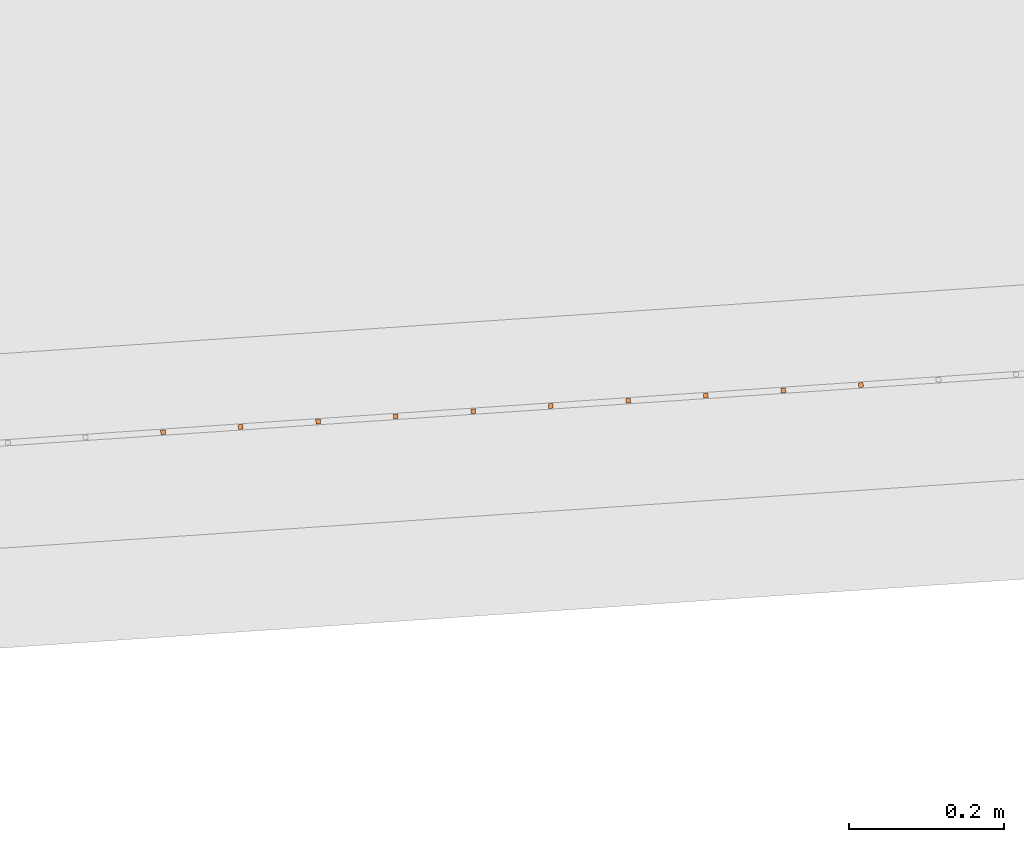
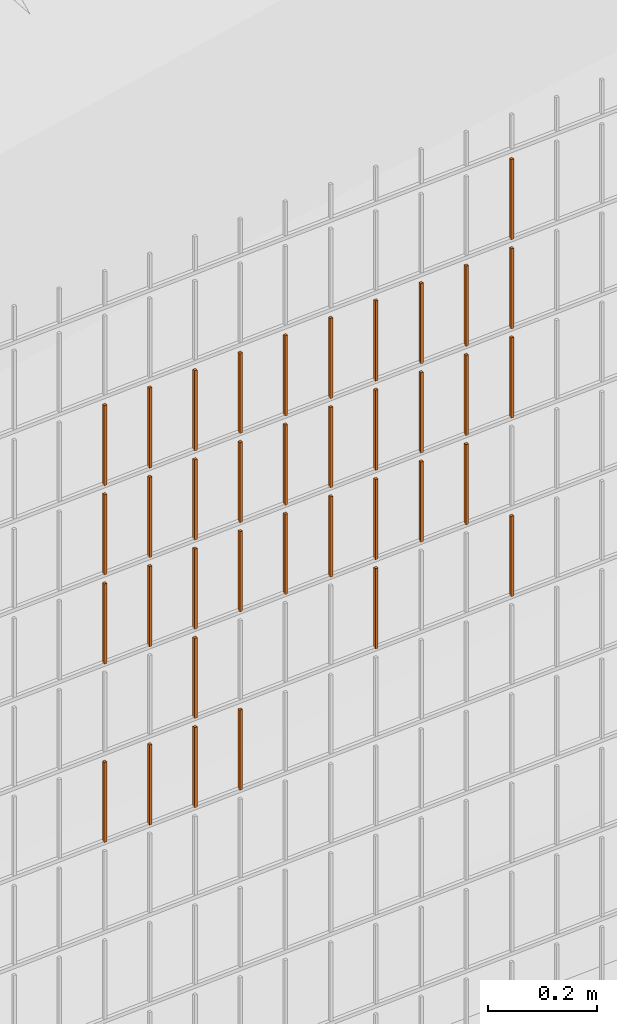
# One storey, part 130 of 1809: 37 proxies, 1 element without a shape of its own.
"""IFC2X3 building model written with IfcOpenShell, lengths in millimetres."""

from ifc_helpers import new_model, entity, si_unit, converted_unit, derived_unit, money_unit, direction, frame, origin_with_axes, place, context, subcontext, project, spatial, faceted_brep, source, transform, mapped, material, type_object, element, aggregate, save


model = new_model("IFC2X3")

# Units and contexts
model_context = context("Model", 3, precision=0.01, world=origin_with_axes(), true_north=direction((0.0, 1.0)))
body_context = subcontext(model_context, "Body", "Model", "MODEL_VIEW")
ifc_project = project(units=[si_unit("LENGTHUNIT", "METRE", prefix="MILLI"), si_unit("AREAUNIT", "SQUARE_METRE"), si_unit("VOLUMEUNIT", "CUBIC_METRE"), converted_unit("PLANEANGLEUNIT", "DEGREE", entity("IfcPlaneAngleMeasure", 0.0174532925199), si_unit("PLANEANGLEUNIT", "RADIAN"), dimensions=[0, 0, 0, 0, 0, 0, 0]), si_unit("SOLIDANGLEUNIT", "STERADIAN"), money_unit("EUR"), converted_unit("TIMEUNIT", "Year", entity("IfcTimeMeasure", 31556926.0), si_unit("TIMEUNIT", "SECOND"), dimensions=[0, 0, 1, 0, 0, 0, 0]), si_unit("MASSUNIT", "GRAM", prefix="KILO"), si_unit("THERMODYNAMICTEMPERATUREUNIT", "DEGREE_CELSIUS"), si_unit("LUMINOUSINTENSITYUNIT", "LUMEN"), si_unit("ENERGYUNIT", "JOULE", prefix="MEGA"), derived_unit("THERMALCONDUCTANCEUNIT", [(si_unit("POWERUNIT", "WATT"), 1), (si_unit("LENGTHUNIT", "METRE"), -1), (si_unit("THERMODYNAMICTEMPERATUREUNIT", "KELVIN"), -1)]), derived_unit("SPECIFICHEATCAPACITYUNIT", [(si_unit("ENERGYUNIT", "JOULE"), 1), (si_unit("MASSUNIT", "GRAM", prefix="KILO"), -1), (si_unit("THERMODYNAMICTEMPERATUREUNIT", "KELVIN"), -1)]), derived_unit("MASSDENSITYUNIT", [(si_unit("MASSUNIT", "GRAM", prefix="KILO"), 1), (si_unit("VOLUMEUNIT", "CUBIC_METRE"), -1)])], contexts=[model_context])

# Site, building, storey
site_placement = place(None, origin_with_axes())
site = spatial("IfcSite", under=ifc_project, at=site_placement, Name="Politse- ja Piirivalveameti ning Päästeameti ühishoone", CompositionType="ELEMENT")
building_placement = place(site_placement, origin_with_axes())
building = spatial("IfcBuilding", under=site, at=building_placement, Name="Politse- ja Piirivalveameti ning Päästeameti ühishoone", CompositionType="ELEMENT")
storey_placement = place(building_placement, origin_with_axes())
storey = spatial("IfcBuildingStorey", under=building, at=storey_placement, Name="Esimene korrus", CompositionType="ELEMENT", Elevation=0.0)

# Proxies
building_element_proxy_type_1 = type_object("IfcBuildingElementProxyType", Name="Railing Type", PredefinedType="NOTDEFINED")
proxy_1_placement = place(storey_placement, frame((89252.001212, -29183.4766571, 203.661247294), z_axis=(0.0, 0.0, 1.0), x_axis=(1.0, 0.0, 0.0)))
proxy_1 = element("IfcBuildingElementProxy", 1, at=proxy_1_placement, inside=storey, type_object=building_element_proxy_type_1, Name="PIIRDEAED")
ifc_material = material(Name="ET-03_Raud")
building_element_proxy_type_2 = type_object("IfcBuildingElementProxyType", Name="IfcBuildingElementProxy", PredefinedType="NOTDEFINED")
shared_shape_1 = source(origin_with_axes(), body_context, "Body", "Brep", [
    faceted_brep([(3.0, 3.0, -0.000752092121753), (-3.0, 3.0, -0.000752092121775), (-3.0, 3.0, 179.99926046), (3.0, 3.0, 179.99926046), (3.0, -3.0, 0.000752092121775), (-3.0, -3.0, 0.000752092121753), (-3.0, -3.0, 180.000764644), (3.0, -3.0, 180.000764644)], [[[0, 1, 2, 3]], [[0, 4, 5, 1]], [[1, 5, 6, 2]], [[3, 2, 6, 7]], [[4, 0, 3, 7]], [[5, 4, 7, 6]]]),
])
proxy_2_placement = place(proxy_1_placement, frame((-91119.0595055, -23452.5233603, 1204.33902467), z_axis=(0.0, 0.0, 1.0), x_axis=(1.0, 0.0, 0.0)))
proxy_2 = element("IfcBuildingElementProxy", 2, at=proxy_2_placement, type_object=building_element_proxy_type_2, material=ifc_material, Name="BALUSTER - 001", context=body_context, shape_type="MappedRepresentation", body=[
    mapped(shared_shape_1, transform((0.0, 0.0, 0.0), x_axis=(-0.0673926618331, 0.997726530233, 0.0), y_axis=(-0.997726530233, -0.0673926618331, 0.0), z_axis=(0.0, 0.0, 1.0))),
])
shared_shape_2 = source(origin_with_axes(), body_context, "Body", "Brep", [
    faceted_brep([(3.0, 3.0, -0.000752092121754), (-3.0, 3.0, -0.000752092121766), (-3.00000000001, 3.00000000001, 179.99926046), (2.99999999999, 3.00000000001, 179.99926046), (3.0, -3.0, 0.000752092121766), (-3.0, -3.0, 0.000752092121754), (-3.00000000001, -2.99999999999, 180.000764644), (2.99999999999, -2.99999999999, 180.000764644)], [[[0, 1, 2, 3]], [[0, 4, 5, 1]], [[1, 5, 6, 2]], [[3, 2, 6, 7]], [[4, 0, 3, 7]], [[5, 4, 7, 6]]]),
])
proxy_3_placement = place(proxy_1_placement, frame((-90919.5141994, -23439.0448279, 1004.38916414), z_axis=(0.0, 0.0, 1.0), x_axis=(1.0, 0.0, 0.0)))
proxy_3 = element("IfcBuildingElementProxy", 3, at=proxy_3_placement, type_object=building_element_proxy_type_2, material=ifc_material, Name="BALUSTER - 001", context=body_context, shape_type="MappedRepresentation", body=[
    mapped(shared_shape_2, transform((0.0, 0.0, 0.0), x_axis=(-0.0673926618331, 0.997726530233, 0.0), y_axis=(-0.997726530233, -0.0673926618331, 0.0), z_axis=(0.0, 0.0, 1.0))),
])
shared_shape_3 = source(origin_with_axes(), body_context, "Body", "Brep", [
    faceted_brep([(3.0, 3.0, -0.000752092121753), (-3.0, 3.0, -0.000752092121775), (-3.0, 3.0, 179.99926046), (3.0, 3.0, 179.99926046), (3.0, -3.0, 0.000752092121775), (-3.0, -3.0, 0.000752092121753), (-3.0, -3.0, 180.000764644), (3.0, -3.0, 180.000764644)], [[[0, 1, 2, 3]], [[0, 4, 5, 1]], [[1, 5, 6, 2]], [[3, 2, 6, 7]], [[4, 0, 3, 7]], [[5, 4, 7, 6]]]),
])
proxy_4_placement = place(proxy_1_placement, frame((-91119.0595055, -23452.5233603, 1404.33902467), z_axis=(0.0, 0.0, 1.0), x_axis=(1.0, 0.0, 0.0)))
proxy_4 = element("IfcBuildingElementProxy", 4, at=proxy_4_placement, type_object=building_element_proxy_type_2, material=ifc_material, Name="BALUSTER - 001", context=body_context, shape_type="MappedRepresentation", body=[
    mapped(shared_shape_3, transform((0.0, 0.0, 0.0), x_axis=(-0.0673926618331, 0.997726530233, 0.0), y_axis=(-0.997726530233, -0.0673926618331, 0.0), z_axis=(0.0, 0.0, 1.0))),
])
proxy_5_placement = place(proxy_1_placement, frame((-91119.0595055, -23452.5233603, 1604.33902467), z_axis=(0.0, 0.0, 1.0), x_axis=(1.0, 0.0, 0.0)))
proxy_5 = element("IfcBuildingElementProxy", 5, at=proxy_5_placement, type_object=building_element_proxy_type_2, material=ifc_material, Name="BALUSTER - 001", context=body_context, shape_type="MappedRepresentation", body=[
    mapped(shared_shape_3, transform((0.0, 0.0, 0.0), x_axis=(-0.0673926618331, 0.997726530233, 0.0), y_axis=(-0.997726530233, -0.0673926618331, 0.0), z_axis=(0.0, 0.0, 1.0))),
])
shared_shape_4 = source(origin_with_axes(), body_context, "Body", "Brep", [
    faceted_brep([(3.0, 3.0, -0.000752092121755), (-3.0, 3.0, -0.000752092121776), (-3.0, 3.0, 179.99926046), (3.0, 3.0, 179.99926046), (3.0, -3.0, 0.000752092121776), (-3.0, -3.0, 0.000752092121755), (-3.0, -3.0, 180.000764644), (3.0, -3.0, 180.000764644)], [[[0, 1, 2, 3]], [[0, 4, 5, 1]], [[1, 5, 6, 2]], [[3, 2, 6, 7]], [[4, 0, 3, 7]], [[5, 4, 7, 6]]]),
])
proxy_6_placement = place(proxy_1_placement, frame((-90719.9688934, -23425.5662955, 1204.43930362), z_axis=(0.0, 0.0, 1.0), x_axis=(1.0, 0.0, 0.0)))
proxy_6 = element("IfcBuildingElementProxy", 6, at=proxy_6_placement, type_object=building_element_proxy_type_2, material=ifc_material, Name="BALUSTER - 001", context=body_context, shape_type="MappedRepresentation", body=[
    mapped(shared_shape_4, transform((0.0, 0.0, 0.0), x_axis=(-0.0673926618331, 0.997726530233, 0.0), y_axis=(-0.997726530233, -0.0673926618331, 0.0), z_axis=(0.0, 0.0, 1.0))),
])
shared_shape_5 = source(origin_with_axes(), body_context, "Body", "Brep", [
    faceted_brep([(3.0, 3.0, -0.000752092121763), (-3.0, 3.0, -0.000752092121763), (-3.0, 3.0, 179.99926046), (3.0, 3.0, 179.99926046), (3.0, -3.0, 0.000752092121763), (-3.0, -3.0, 0.000752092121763), (-3.0, -3.0, 180.000764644), (3.0, -3.0, 180.000764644)], [[[0, 1, 2, 3]], [[0, 4, 5, 1]], [[1, 5, 6, 2]], [[3, 2, 6, 7]], [[4, 0, 3, 7]], [[5, 4, 7, 6]]]),
])
proxy_7_placement = place(proxy_1_placement, frame((-90919.5141994, -23439.0448279, 804.389164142), z_axis=(0.0, 0.0, 1.0), x_axis=(1.0, 0.0, 0.0)))
proxy_7 = element("IfcBuildingElementProxy", 7, at=proxy_7_placement, type_object=building_element_proxy_type_2, material=ifc_material, Name="BALUSTER - 001", context=body_context, shape_type="MappedRepresentation", body=[
    mapped(shared_shape_5, transform((0.0, 0.0, 0.0), x_axis=(-0.0673926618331, 0.997726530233, 0.0), y_axis=(-0.997726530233, -0.0673926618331, 0.0), z_axis=(0.0, 0.0, 1.0))),
])
shared_shape_6 = source(origin_with_axes(), body_context, "Body", "Brep", [
    faceted_brep([(3.0, 3.0, -0.000752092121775), (-3.0, 3.0, -0.000752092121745), (-3.00000000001, 3.0, 179.99926046), (2.99999999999, 3.0, 179.99926046), (3.0, -3.0, 0.000752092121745), (-3.0, -3.0, 0.000752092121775), (-3.00000000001, -3.0, 180.000764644), (2.99999999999, -3.0, 180.000764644)], [[[0, 1, 2, 3]], [[0, 4, 5, 1]], [[1, 5, 6, 2]], [[3, 2, 6, 7]], [[4, 0, 3, 7]], [[5, 4, 7, 6]]]),
])
proxy_8_placement = place(proxy_1_placement, frame((-90221.1056283, -23391.8699646, 1004.5646523), z_axis=(0.0, 0.0, 1.0), x_axis=(1.0, 0.0, 0.0)))
proxy_8 = element("IfcBuildingElementProxy", 8, at=proxy_8_placement, type_object=building_element_proxy_type_2, material=ifc_material, Name="BALUSTER - 001", context=body_context, shape_type="MappedRepresentation", body=[
    mapped(shared_shape_6, transform((0.0, 0.0, 0.0), x_axis=(-0.0673926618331, 0.997726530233, 0.0), y_axis=(-0.997726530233, -0.0673926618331, 0.0), z_axis=(0.0, 0.0, 1.0))),
])
shared_shape_7 = source(origin_with_axes(), body_context, "Body", "Brep", [
    faceted_brep([(3.0, 3.0, -0.000752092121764), (-3.0, 3.0, -0.000752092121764), (-3.0, 3.0, 179.99926046), (3.0, 3.0, 179.99926046), (3.0, -3.0, 0.000752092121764), (-3.0, -3.0, 0.000752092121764), (-3.0, -3.0, 180.000764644), (3.0, -3.0, 180.000764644)], [[[0, 1, 2, 3]], [[0, 4, 5, 1]], [[1, 5, 6, 2]], [[3, 2, 6, 7]], [[4, 0, 3, 7]], [[5, 4, 7, 6]]]),
])
proxy_9_placement = place(proxy_1_placement, frame((-91019.2868524, -23445.7840941, 1204.3640944), z_axis=(0.0, 0.0, 1.0), x_axis=(1.0, 0.0, 0.0)))
proxy_9 = element("IfcBuildingElementProxy", 9, at=proxy_9_placement, type_object=building_element_proxy_type_2, material=ifc_material, Name="BALUSTER - 001", context=body_context, shape_type="MappedRepresentation", body=[
    mapped(shared_shape_7, transform((0.0, 0.0, 0.0), x_axis=(-0.0673926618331, 0.997726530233, 0.0), y_axis=(-0.997726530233, -0.0673926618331, 0.0), z_axis=(0.0, 0.0, 1.0))),
])
shared_shape_8 = source(origin_with_axes(), body_context, "Body", "Brep", [
    faceted_brep([(3.0, 3.0, -0.000752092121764), (-3.0, 3.0, -0.000752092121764), (-3.0, 3.0, 179.99926046), (3.0, 3.0, 179.99926046), (3.0, -3.0, 0.000752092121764), (-3.0, -3.0, 0.000752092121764), (-3.0, -3.0, 180.000764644), (3.0, -3.0, 180.000764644)], [[[0, 1, 2, 3]], [[0, 4, 5, 1]], [[1, 5, 6, 2]], [[3, 2, 6, 7]], [[4, 0, 3, 7]], [[5, 4, 7, 6]]]),
])
proxy_10_placement = place(proxy_1_placement, frame((-91019.2868524, -23445.7840941, 1404.3640944), z_axis=(0.0, 0.0, 1.0), x_axis=(1.0, 0.0, 0.0)))
proxy_10 = element("IfcBuildingElementProxy", 10, at=proxy_10_placement, type_object=building_element_proxy_type_2, material=ifc_material, Name="BALUSTER - 001", context=body_context, shape_type="MappedRepresentation", body=[
    mapped(shared_shape_8, transform((0.0, 0.0, 0.0), x_axis=(-0.0673926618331, 0.997726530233, 0.0), y_axis=(-0.997726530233, -0.0673926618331, 0.0), z_axis=(0.0, 0.0, 1.0))),
])
proxy_11_placement = place(proxy_1_placement, frame((-91019.2868524, -23445.7840941, 1604.3640944), z_axis=(0.0, 0.0, 1.0), x_axis=(1.0, 0.0, 0.0)))
proxy_11 = element("IfcBuildingElementProxy", 11, at=proxy_11_placement, type_object=building_element_proxy_type_2, material=ifc_material, Name="BALUSTER - 001", context=body_context, shape_type="MappedRepresentation", body=[
    mapped(shared_shape_8, transform((0.0, 0.0, 0.0), x_axis=(-0.0673926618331, 0.997726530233, 0.0), y_axis=(-0.997726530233, -0.0673926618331, 0.0), z_axis=(0.0, 0.0, 1.0))),
])
shared_shape_9 = source(origin_with_axes(), body_context, "Body", "Brep", [
    faceted_brep([(3.0, 3.0, -0.000752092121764), (-3.0, 3.0, -0.000752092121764), (-3.0, 3.0, 179.99926046), (3.0, 3.0, 179.99926046), (3.0, -3.0, 0.000752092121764), (-3.0, -3.0, 0.000752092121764), (-3.0, -3.0, 180.000764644), (3.0, -3.0, 180.000764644)], [[[0, 1, 2, 3]], [[0, 4, 5, 1]], [[1, 5, 6, 2]], [[3, 2, 6, 7]], [[4, 0, 3, 7]], [[5, 4, 7, 6]]]),
])
proxy_12_placement = place(proxy_1_placement, frame((-90520.4235873, -23412.0877632, 1204.48944309), z_axis=(0.0, 0.0, 1.0), x_axis=(1.0, 0.0, 0.0)))
proxy_12 = element("IfcBuildingElementProxy", 12, at=proxy_12_placement, type_object=building_element_proxy_type_2, material=ifc_material, Name="BALUSTER - 001", context=body_context, shape_type="MappedRepresentation", body=[
    mapped(shared_shape_9, transform((0.0, 0.0, 0.0), x_axis=(-0.0673926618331, 0.997726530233, 0.0), y_axis=(-0.997726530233, -0.0673926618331, 0.0), z_axis=(0.0, 0.0, 1.0))),
])
shared_shape_10 = source(origin_with_axes(), body_context, "Body", "Brep", [
    faceted_brep([(3.0, 3.0, -0.000752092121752), (-3.0, 3.0, -0.000752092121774), (-3.0, 3.0, 179.99926046), (3.0, 3.0, 179.99926046), (3.0, -3.0, 0.000752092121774), (-3.0, -3.0, 0.000752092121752), (-3.0, -3.0, 180.000764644), (3.0, -3.0, 180.000764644)], [[[0, 1, 2, 3]], [[0, 4, 5, 1]], [[1, 5, 6, 2]], [[3, 2, 6, 7]], [[4, 0, 3, 7]], [[5, 4, 7, 6]]]),
])
proxy_13_placement = place(proxy_1_placement, frame((-90819.7415464, -23432.3055617, 804.41423388), z_axis=(0.0, 0.0, 1.0), x_axis=(1.0, 0.0, 0.0)))
proxy_13 = element("IfcBuildingElementProxy", 13, at=proxy_13_placement, type_object=building_element_proxy_type_2, material=ifc_material, Name="BALUSTER - 001", context=body_context, shape_type="MappedRepresentation", body=[
    mapped(shared_shape_10, transform((0.0, 0.0, 0.0), x_axis=(-0.0673926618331, 0.997726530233, 0.0), y_axis=(-0.997726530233, -0.0673926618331, 0.0), z_axis=(0.0, 0.0, 1.0))),
])
proxy_14_placement = place(proxy_1_placement, frame((-90420.6509343, -23405.348497, 1204.51451283), z_axis=(0.0, 0.0, 1.0), x_axis=(1.0, 0.0, 0.0)))
proxy_14 = element("IfcBuildingElementProxy", 14, at=proxy_14_placement, type_object=building_element_proxy_type_2, material=ifc_material, Name="BALUSTER - 001", context=body_context, shape_type="MappedRepresentation", body=[
    mapped(shared_shape_10, transform((0.0, 0.0, 0.0), x_axis=(-0.0673926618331, 0.997726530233, 0.0), y_axis=(-0.997726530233, -0.0673926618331, 0.0), z_axis=(0.0, 0.0, 1.0))),
])
shared_shape_11 = source(origin_with_axes(), body_context, "Body", "Brep", [
    faceted_brep([(3.0, 3.0, -0.000752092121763), (-3.0, 3.0, -0.000752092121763), (-3.0, 3.0, 179.99926046), (3.0, 3.0, 179.99926046), (3.0, -3.0, 0.000752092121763), (-3.0, -3.0, 0.000752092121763), (-3.0, -3.0, 180.000764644), (3.0, -3.0, 180.000764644)], [[[0, 1, 2, 3]], [[0, 4, 5, 1]], [[1, 5, 6, 2]], [[3, 2, 6, 7]], [[4, 0, 3, 7]], [[5, 4, 7, 6]]]),
])
proxy_15_placement = place(proxy_1_placement, frame((-91019.2868524, -23445.7840941, 804.364094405), z_axis=(0.0, 0.0, 1.0), x_axis=(1.0, 0.0, 0.0)))
proxy_15 = element("IfcBuildingElementProxy", 15, at=proxy_15_placement, type_object=building_element_proxy_type_2, material=ifc_material, Name="BALUSTER - 001", context=body_context, shape_type="MappedRepresentation", body=[
    mapped(shared_shape_11, transform((0.0, 0.0, 0.0), x_axis=(-0.0673926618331, 0.997726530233, 0.0), y_axis=(-0.997726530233, -0.0673926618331, 0.0), z_axis=(0.0, 0.0, 1.0))),
])
proxy_16_placement = place(proxy_1_placement, frame((-90620.1962404, -23418.8270294, 1204.46437335), z_axis=(0.0, 0.0, 1.0), x_axis=(1.0, 0.0, 0.0)))
proxy_16 = element("IfcBuildingElementProxy", 16, at=proxy_16_placement, type_object=building_element_proxy_type_2, material=ifc_material, Name="BALUSTER - 001", context=body_context, shape_type="MappedRepresentation", body=[
    mapped(shared_shape_11, transform((0.0, 0.0, 0.0), x_axis=(-0.0673926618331, 0.997726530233, 0.0), y_axis=(-0.997726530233, -0.0673926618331, 0.0), z_axis=(0.0, 0.0, 1.0))),
])
shared_shape_12 = source(origin_with_axes(), body_context, "Body", "Brep", [
    faceted_brep([(3.0, 3.0, -0.000752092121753), (-3.0, 3.0, -0.000752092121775), (-3.0, 3.0, 179.99926046), (3.0, 3.0, 179.99926046), (3.0, -3.0, 0.000752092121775), (-3.0, -3.0, 0.000752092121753), (-3.0, -3.0, 180.000764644), (3.0, -3.0, 180.000764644)], [[[0, 1, 2, 3]], [[0, 4, 5, 1]], [[1, 5, 6, 2]], [[3, 2, 6, 7]], [[4, 0, 3, 7]], [[5, 4, 7, 6]]]),
])
proxy_17_placement = place(proxy_1_placement, frame((-91119.0595055, -23452.5233603, 804.339024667), z_axis=(0.0, 0.0, 1.0), x_axis=(1.0, 0.0, 0.0)))
proxy_17 = element("IfcBuildingElementProxy", 17, at=proxy_17_placement, type_object=building_element_proxy_type_2, material=ifc_material, Name="BALUSTER - 001", context=body_context, shape_type="MappedRepresentation", body=[
    mapped(shared_shape_12, transform((0.0, 0.0, 0.0), x_axis=(-0.0673926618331, 0.997726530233, 0.0), y_axis=(-0.997726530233, -0.0673926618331, 0.0), z_axis=(0.0, 0.0, 1.0))),
])
shared_shape_13 = source(origin_with_axes(), body_context, "Body", "Brep", [
    faceted_brep([(3.0, 3.0, -0.000752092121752), (-3.0, 3.0, -0.000752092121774), (-3.0, 3.0, 179.99926046), (3.0, 3.0, 179.99926046), (3.0, -3.0, 0.000752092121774), (-3.0, -3.0, 0.000752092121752), (-3.0, -3.0, 180.000764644), (3.0, -3.0, 180.000764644)], [[[0, 1, 2, 3]], [[0, 4, 5, 1]], [[1, 5, 6, 2]], [[3, 2, 6, 7]], [[4, 0, 3, 7]], [[5, 4, 7, 6]]]),
])
proxy_18_placement = place(proxy_1_placement, frame((-90320.8782813, -23398.6092308, 1204.53958257), z_axis=(0.0, 0.0, 1.0), x_axis=(1.0, 0.0, 0.0)))
proxy_18 = element("IfcBuildingElementProxy", 18, at=proxy_18_placement, type_object=building_element_proxy_type_2, material=ifc_material, Name="BALUSTER - 001", context=body_context, shape_type="MappedRepresentation", body=[
    mapped(shared_shape_13, transform((0.0, 0.0, 0.0), x_axis=(-0.0673926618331, 0.997726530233, 0.0), y_axis=(-0.997726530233, -0.0673926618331, 0.0), z_axis=(0.0, 0.0, 1.0))),
])
proxy_19_placement = place(proxy_1_placement, frame((-90919.5141994, -23439.0448279, 1204.38916414), z_axis=(0.0, 0.0, 1.0), x_axis=(1.0, 0.0, 0.0)))
proxy_19 = element("IfcBuildingElementProxy", 19, at=proxy_19_placement, type_object=building_element_proxy_type_2, material=ifc_material, Name="BALUSTER - 001", context=body_context, shape_type="MappedRepresentation", body=[
    mapped(shared_shape_13, transform((0.0, 0.0, 0.0), x_axis=(-0.0673926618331, 0.997726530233, 0.0), y_axis=(-0.997726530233, -0.0673926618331, 0.0), z_axis=(0.0, 0.0, 1.0))),
])
shared_shape_14 = source(origin_with_axes(), body_context, "Body", "Brep", [
    faceted_brep([(3.0, 3.0, -0.000752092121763), (-3.0, 3.0, -0.000752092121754), (-3.00000000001, 3.0, 179.99926046), (2.99999999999, 3.0, 179.99926046), (3.0, -3.0, 0.000752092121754), (-3.0, -3.0, 0.000752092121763), (-3.00000000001, -3.0, 180.000764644), (2.99999999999, -3.0, 180.000764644)], [[[0, 1, 2, 3]], [[0, 4, 5, 1]], [[1, 5, 6, 2]], [[3, 2, 6, 7]], [[4, 0, 3, 7]], [[5, 4, 7, 6]]]),
])
proxy_20_placement = place(proxy_1_placement, frame((-90520.4235873, -23412.0877632, 1004.48944309), z_axis=(0.0, 0.0, 1.0), x_axis=(1.0, 0.0, 0.0)))
proxy_20 = element("IfcBuildingElementProxy", 20, at=proxy_20_placement, type_object=building_element_proxy_type_2, material=ifc_material, Name="BALUSTER - 001", context=body_context, shape_type="MappedRepresentation", body=[
    mapped(shared_shape_14, transform((0.0, 0.0, 0.0), x_axis=(-0.0673926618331, 0.997726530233, 0.0), y_axis=(-0.997726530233, -0.0673926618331, 0.0), z_axis=(0.0, 0.0, 1.0))),
])
shared_shape_15 = source(origin_with_axes(), body_context, "Body", "Brep", [
    faceted_brep([(3.0, 3.0, -0.000752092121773), (-3.0, 3.0, -0.000752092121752), (-3.0, 3.0, 179.99926046), (3.0, 3.0, 179.99926046), (3.0, -3.0, 0.000752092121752), (-3.0, -3.0, 0.000752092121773), (-3.0, -3.0, 180.000764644), (3.0, -3.0, 180.000764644)], [[[0, 1, 2, 3]], [[0, 4, 5, 1]], [[1, 5, 6, 2]], [[3, 2, 6, 7]], [[4, 0, 3, 7]], [[5, 4, 7, 6]]]),
])
proxy_21_placement = place(proxy_1_placement, frame((-90819.7415464, -23432.3055617, 1204.41423388), z_axis=(0.0, 0.0, 1.0), x_axis=(1.0, 0.0, 0.0)))
proxy_21 = element("IfcBuildingElementProxy", 21, at=proxy_21_placement, type_object=building_element_proxy_type_2, material=ifc_material, Name="BALUSTER - 001", context=body_context, shape_type="MappedRepresentation", body=[
    mapped(shared_shape_15, transform((0.0, 0.0, 0.0), x_axis=(-0.0673926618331, 0.997726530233, 0.0), y_axis=(-0.997726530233, -0.0673926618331, 0.0), z_axis=(0.0, 0.0, 1.0))),
])
shared_shape_16 = source(origin_with_axes(), body_context, "Body", "Brep", [
    faceted_brep([(3.0, 3.0, -0.000752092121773), (-3.0, 3.0, -0.000752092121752), (-3.0, 3.0, 179.99926046), (3.0, 3.0, 179.99926046), (3.0, -3.0, 0.000752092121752), (-3.0, -3.0, 0.000752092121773), (-3.0, -3.0, 180.000764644), (3.0, -3.0, 180.000764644)], [[[0, 1, 2, 3]], [[0, 4, 5, 1]], [[1, 5, 6, 2]], [[3, 2, 6, 7]], [[4, 0, 3, 7]], [[5, 4, 7, 6]]]),
])
proxy_22_placement = place(proxy_1_placement, frame((-90221.1056283, -23391.8699646, 1804.5646523), z_axis=(0.0, 0.0, 1.0), x_axis=(1.0, 0.0, 0.0)))
proxy_22 = element("IfcBuildingElementProxy", 22, at=proxy_22_placement, type_object=building_element_proxy_type_2, material=ifc_material, Name="BALUSTER - 001", context=body_context, shape_type="MappedRepresentation", body=[
    mapped(shared_shape_16, transform((0.0, 0.0, 0.0), x_axis=(-0.0673926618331, 0.997726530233, 0.0), y_axis=(-0.997726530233, -0.0673926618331, 0.0), z_axis=(0.0, 0.0, 1.0))),
])
shared_shape_17 = source(origin_with_axes(), body_context, "Body", "Brep", [
    faceted_brep([(3.0, 3.0, -0.000752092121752), (-3.0, 3.0, -0.000752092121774), (-3.0, 3.0, 179.99926046), (3.0, 3.0, 179.99926046), (3.0, -3.0, 0.000752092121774), (-3.0, -3.0, 0.000752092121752), (-3.0, -3.0, 180.000764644), (3.0, -3.0, 180.000764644)], [[[0, 1, 2, 3]], [[0, 4, 5, 1]], [[1, 5, 6, 2]], [[3, 2, 6, 7]], [[4, 0, 3, 7]], [[5, 4, 7, 6]]]),
])
proxy_23_placement = place(proxy_1_placement, frame((-90420.6509343, -23405.348497, 1404.51451283), z_axis=(0.0, 0.0, 1.0), x_axis=(1.0, 0.0, 0.0)))
proxy_23 = element("IfcBuildingElementProxy", 23, at=proxy_23_placement, type_object=building_element_proxy_type_2, material=ifc_material, Name="BALUSTER - 001", context=body_context, shape_type="MappedRepresentation", body=[
    mapped(shared_shape_17, transform((0.0, 0.0, 0.0), x_axis=(-0.0673926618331, 0.997726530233, 0.0), y_axis=(-0.997726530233, -0.0673926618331, 0.0), z_axis=(0.0, 0.0, 1.0))),
])
proxy_24_placement = place(proxy_1_placement, frame((-90420.6509343, -23405.348497, 1604.51451283), z_axis=(0.0, 0.0, 1.0), x_axis=(1.0, 0.0, 0.0)))
proxy_24 = element("IfcBuildingElementProxy", 24, at=proxy_24_placement, type_object=building_element_proxy_type_2, material=ifc_material, Name="BALUSTER - 001", context=body_context, shape_type="MappedRepresentation", body=[
    mapped(shared_shape_17, transform((0.0, 0.0, 0.0), x_axis=(-0.0673926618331, 0.997726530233, 0.0), y_axis=(-0.997726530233, -0.0673926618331, 0.0), z_axis=(0.0, 0.0, 1.0))),
])
shared_shape_18 = source(origin_with_axes(), body_context, "Body", "Brep", [
    faceted_brep([(3.0, 3.0, -0.000752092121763), (-3.0, 3.0, -0.000752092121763), (-3.0, 3.0, 179.99926046), (3.0, 3.0, 179.99926046), (3.0, -3.0, 0.000752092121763), (-3.0, -3.0, 0.000752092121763), (-3.0, -3.0, 180.000764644), (3.0, -3.0, 180.000764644)], [[[0, 1, 2, 3]], [[0, 4, 5, 1]], [[1, 5, 6, 2]], [[3, 2, 6, 7]], [[4, 0, 3, 7]], [[5, 4, 7, 6]]]),
])
proxy_25_placement = place(proxy_1_placement, frame((-90620.1962404, -23418.8270294, 1404.46437335), z_axis=(0.0, 0.0, 1.0), x_axis=(1.0, 0.0, 0.0)))
proxy_25 = element("IfcBuildingElementProxy", 25, at=proxy_25_placement, type_object=building_element_proxy_type_2, material=ifc_material, Name="BALUSTER - 001", context=body_context, shape_type="MappedRepresentation", body=[
    mapped(shared_shape_18, transform((0.0, 0.0, 0.0), x_axis=(-0.0673926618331, 0.997726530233, 0.0), y_axis=(-0.997726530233, -0.0673926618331, 0.0), z_axis=(0.0, 0.0, 1.0))),
])
proxy_26_placement = place(proxy_1_placement, frame((-90620.1962404, -23418.8270294, 1604.46437335), z_axis=(0.0, 0.0, 1.0), x_axis=(1.0, 0.0, 0.0)))
proxy_26 = element("IfcBuildingElementProxy", 26, at=proxy_26_placement, type_object=building_element_proxy_type_2, material=ifc_material, Name="BALUSTER - 001", context=body_context, shape_type="MappedRepresentation", body=[
    mapped(shared_shape_18, transform((0.0, 0.0, 0.0), x_axis=(-0.0673926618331, 0.997726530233, 0.0), y_axis=(-0.997726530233, -0.0673926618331, 0.0), z_axis=(0.0, 0.0, 1.0))),
])
shared_shape_19 = source(origin_with_axes(), body_context, "Body", "Brep", [
    faceted_brep([(3.0, 3.0, -0.000752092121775), (-3.0, 3.0, -0.000752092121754), (-3.0, 3.0, 179.99926046), (3.0, 3.0, 179.99926046), (3.0, -3.0, 0.000752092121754), (-3.0, -3.0, 0.000752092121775), (-3.0, -3.0, 180.000764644), (3.0, -3.0, 180.000764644)], [[[0, 1, 2, 3]], [[0, 4, 5, 1]], [[1, 5, 6, 2]], [[3, 2, 6, 7]], [[4, 0, 3, 7]], [[5, 4, 7, 6]]]),
])
proxy_27_placement = place(proxy_1_placement, frame((-90221.1056283, -23391.8699646, 1404.5646523), z_axis=(0.0, 0.0, 1.0), x_axis=(1.0, 0.0, 0.0)))
proxy_27 = element("IfcBuildingElementProxy", 27, at=proxy_27_placement, type_object=building_element_proxy_type_2, material=ifc_material, Name="BALUSTER - 001", context=body_context, shape_type="MappedRepresentation", body=[
    mapped(shared_shape_19, transform((0.0, 0.0, 0.0), x_axis=(-0.0673926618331, 0.997726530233, 0.0), y_axis=(-0.997726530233, -0.0673926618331, 0.0), z_axis=(0.0, 0.0, 1.0))),
])
proxy_28_placement = place(proxy_1_placement, frame((-90221.1056283, -23391.8699646, 1604.5646523), z_axis=(0.0, 0.0, 1.0), x_axis=(1.0, 0.0, 0.0)))
proxy_28 = element("IfcBuildingElementProxy", 28, at=proxy_28_placement, type_object=building_element_proxy_type_2, material=ifc_material, Name="BALUSTER - 001", context=body_context, shape_type="MappedRepresentation", body=[
    mapped(shared_shape_19, transform((0.0, 0.0, 0.0), x_axis=(-0.0673926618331, 0.997726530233, 0.0), y_axis=(-0.997726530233, -0.0673926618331, 0.0), z_axis=(0.0, 0.0, 1.0))),
])
shared_shape_20 = source(origin_with_axes(), body_context, "Body", "Brep", [
    faceted_brep([(3.0, 3.0, -0.000752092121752), (-3.0, 3.0, -0.000752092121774), (-3.0, 3.0, 179.99926046), (3.0, 3.0, 179.99926046), (3.0, -3.0, 0.000752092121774), (-3.0, -3.0, 0.000752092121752), (-3.0, -3.0, 180.000764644), (3.0, -3.0, 180.000764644)], [[[0, 1, 2, 3]], [[0, 4, 5, 1]], [[1, 5, 6, 2]], [[3, 2, 6, 7]], [[4, 0, 3, 7]], [[5, 4, 7, 6]]]),
])
proxy_29_placement = place(proxy_1_placement, frame((-90320.8782813, -23398.6092308, 1404.53958257), z_axis=(0.0, 0.0, 1.0), x_axis=(1.0, 0.0, 0.0)))
proxy_29 = element("IfcBuildingElementProxy", 29, at=proxy_29_placement, type_object=building_element_proxy_type_2, material=ifc_material, Name="BALUSTER - 001", context=body_context, shape_type="MappedRepresentation", body=[
    mapped(shared_shape_20, transform((0.0, 0.0, 0.0), x_axis=(-0.0673926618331, 0.997726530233, 0.0), y_axis=(-0.997726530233, -0.0673926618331, 0.0), z_axis=(0.0, 0.0, 1.0))),
])
proxy_30_placement = place(proxy_1_placement, frame((-90919.5141994, -23439.0448279, 1404.38916414), z_axis=(0.0, 0.0, 1.0), x_axis=(1.0, 0.0, 0.0)))
proxy_30 = element("IfcBuildingElementProxy", 30, at=proxy_30_placement, type_object=building_element_proxy_type_2, material=ifc_material, Name="BALUSTER - 001", context=body_context, shape_type="MappedRepresentation", body=[
    mapped(shared_shape_20, transform((0.0, 0.0, 0.0), x_axis=(-0.0673926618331, 0.997726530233, 0.0), y_axis=(-0.997726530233, -0.0673926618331, 0.0), z_axis=(0.0, 0.0, 1.0))),
])
proxy_31_placement = place(proxy_1_placement, frame((-90320.8782813, -23398.6092308, 1604.53958257), z_axis=(0.0, 0.0, 1.0), x_axis=(1.0, 0.0, 0.0)))
proxy_31 = element("IfcBuildingElementProxy", 31, at=proxy_31_placement, type_object=building_element_proxy_type_2, material=ifc_material, Name="BALUSTER - 001", context=body_context, shape_type="MappedRepresentation", body=[
    mapped(shared_shape_20, transform((0.0, 0.0, 0.0), x_axis=(-0.0673926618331, 0.997726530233, 0.0), y_axis=(-0.997726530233, -0.0673926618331, 0.0), z_axis=(0.0, 0.0, 1.0))),
])
proxy_32_placement = place(proxy_1_placement, frame((-90919.5141994, -23439.0448279, 1604.38916414), z_axis=(0.0, 0.0, 1.0), x_axis=(1.0, 0.0, 0.0)))
proxy_32 = element("IfcBuildingElementProxy", 32, at=proxy_32_placement, type_object=building_element_proxy_type_2, material=ifc_material, Name="BALUSTER - 001", context=body_context, shape_type="MappedRepresentation", body=[
    mapped(shared_shape_20, transform((0.0, 0.0, 0.0), x_axis=(-0.0673926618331, 0.997726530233, 0.0), y_axis=(-0.997726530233, -0.0673926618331, 0.0), z_axis=(0.0, 0.0, 1.0))),
])
shared_shape_21 = source(origin_with_axes(), body_context, "Body", "Brep", [
    faceted_brep([(3.0, 3.0, -0.000752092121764), (-3.0, 3.0, -0.000752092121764), (-3.0, 3.0, 179.99926046), (3.0, 3.0, 179.99926046), (3.0, -3.0, 0.000752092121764), (-3.0, -3.0, 0.000752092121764), (-3.0, -3.0, 180.000764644), (3.0, -3.0, 180.000764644)], [[[0, 1, 2, 3]], [[0, 4, 5, 1]], [[1, 5, 6, 2]], [[3, 2, 6, 7]], [[4, 0, 3, 7]], [[5, 4, 7, 6]]]),
])
proxy_33_placement = place(proxy_1_placement, frame((-90520.4235873, -23412.0877632, 1404.48944309), z_axis=(0.0, 0.0, 1.0), x_axis=(1.0, 0.0, 0.0)))
proxy_33 = element("IfcBuildingElementProxy", 33, at=proxy_33_placement, type_object=building_element_proxy_type_2, material=ifc_material, Name="BALUSTER - 001", context=body_context, shape_type="MappedRepresentation", body=[
    mapped(shared_shape_21, transform((0.0, 0.0, 0.0), x_axis=(-0.0673926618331, 0.997726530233, 0.0), y_axis=(-0.997726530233, -0.0673926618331, 0.0), z_axis=(0.0, 0.0, 1.0))),
])
proxy_34_placement = place(proxy_1_placement, frame((-90520.4235873, -23412.0877632, 1604.48944309), z_axis=(0.0, 0.0, 1.0), x_axis=(1.0, 0.0, 0.0)))
proxy_34 = element("IfcBuildingElementProxy", 34, at=proxy_34_placement, type_object=building_element_proxy_type_2, material=ifc_material, Name="BALUSTER - 001", context=body_context, shape_type="MappedRepresentation", body=[
    mapped(shared_shape_21, transform((0.0, 0.0, 0.0), x_axis=(-0.0673926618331, 0.997726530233, 0.0), y_axis=(-0.997726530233, -0.0673926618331, 0.0), z_axis=(0.0, 0.0, 1.0))),
])
shared_shape_22 = source(origin_with_axes(), body_context, "Body", "Brep", [
    faceted_brep([(3.0, 3.0, -0.000752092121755), (-3.0, 3.0, -0.000752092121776), (-3.0, 3.0, 179.99926046), (3.0, 3.0, 179.99926046), (3.0, -3.0, 0.000752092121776), (-3.0, -3.0, 0.000752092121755), (-3.0, -3.0, 180.000764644), (3.0, -3.0, 180.000764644)], [[[0, 1, 2, 3]], [[0, 4, 5, 1]], [[1, 5, 6, 2]], [[3, 2, 6, 7]], [[4, 0, 3, 7]], [[5, 4, 7, 6]]]),
])
proxy_35_placement = place(proxy_1_placement, frame((-90719.9688934, -23425.5662955, 1404.43930362), z_axis=(0.0, 0.0, 1.0), x_axis=(1.0, 0.0, 0.0)))
proxy_35 = element("IfcBuildingElementProxy", 35, at=proxy_35_placement, type_object=building_element_proxy_type_2, material=ifc_material, Name="BALUSTER - 001", context=body_context, shape_type="MappedRepresentation", body=[
    mapped(shared_shape_22, transform((0.0, 0.0, 0.0), x_axis=(-0.0673926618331, 0.997726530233, 0.0), y_axis=(-0.997726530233, -0.0673926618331, 0.0), z_axis=(0.0, 0.0, 1.0))),
])
proxy_36_placement = place(proxy_1_placement, frame((-90719.9688934, -23425.5662955, 1604.43930362), z_axis=(0.0, 0.0, 1.0), x_axis=(1.0, 0.0, 0.0)))
proxy_36 = element("IfcBuildingElementProxy", 36, at=proxy_36_placement, type_object=building_element_proxy_type_2, material=ifc_material, Name="BALUSTER - 001", context=body_context, shape_type="MappedRepresentation", body=[
    mapped(shared_shape_22, transform((0.0, 0.0, 0.0), x_axis=(-0.0673926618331, 0.997726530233, 0.0), y_axis=(-0.997726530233, -0.0673926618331, 0.0), z_axis=(0.0, 0.0, 1.0))),
])
shared_shape_23 = source(origin_with_axes(), body_context, "Body", "Brep", [
    faceted_brep([(3.0, 3.0, -0.000752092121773), (-3.0, 3.0, -0.000752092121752), (-3.0, 3.0, 179.99926046), (3.0, 3.0, 179.99926046), (3.0, -3.0, 0.000752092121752), (-3.0, -3.0, 0.000752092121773), (-3.0, -3.0, 180.000764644), (3.0, -3.0, 180.000764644)], [[[0, 1, 2, 3]], [[0, 4, 5, 1]], [[1, 5, 6, 2]], [[3, 2, 6, 7]], [[4, 0, 3, 7]], [[5, 4, 7, 6]]]),
])
proxy_37_placement = place(proxy_1_placement, frame((-90819.7415464, -23432.3055617, 1404.41423388), z_axis=(0.0, 0.0, 1.0), x_axis=(1.0, 0.0, 0.0)))
proxy_37 = element("IfcBuildingElementProxy", 37, at=proxy_37_placement, type_object=building_element_proxy_type_2, material=ifc_material, Name="BALUSTER - 001", context=body_context, shape_type="MappedRepresentation", body=[
    mapped(shared_shape_23, transform((0.0, 0.0, 0.0), x_axis=(-0.0673926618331, 0.997726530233, 0.0), y_axis=(-0.997726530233, -0.0673926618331, 0.0), z_axis=(0.0, 0.0, 1.0))),
])
proxy_38_placement = place(proxy_1_placement, frame((-90819.7415464, -23432.3055617, 1604.41423388), z_axis=(0.0, 0.0, 1.0), x_axis=(1.0, 0.0, 0.0)))
proxy_38 = element("IfcBuildingElementProxy", 38, at=proxy_38_placement, type_object=building_element_proxy_type_2, material=ifc_material, Name="BALUSTER - 001", context=body_context, shape_type="MappedRepresentation", body=[
    mapped(shared_shape_23, transform((0.0, 0.0, 0.0), x_axis=(-0.0673926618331, 0.997726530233, 0.0), y_axis=(-0.997726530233, -0.0673926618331, 0.0), z_axis=(0.0, 0.0, 1.0))),
])
aggregate(proxy_1, [proxy_13, proxy_7, proxy_15, proxy_17, proxy_8, proxy_20, proxy_3, proxy_18, proxy_14, proxy_12, proxy_16, proxy_6, proxy_21, proxy_19, proxy_9, proxy_2, proxy_27, proxy_29, proxy_23, proxy_33, proxy_25, proxy_35, proxy_37, proxy_30, proxy_10, proxy_4, proxy_28, proxy_31, proxy_24, proxy_34, proxy_26, proxy_36, proxy_38, proxy_32, proxy_11, proxy_5, proxy_22])

save(model, "model.ifc")
